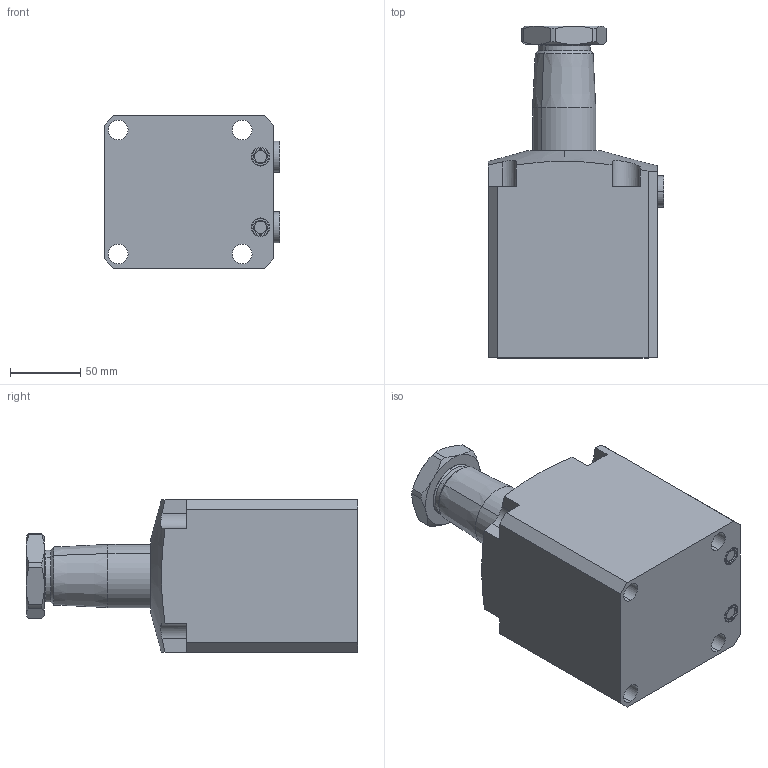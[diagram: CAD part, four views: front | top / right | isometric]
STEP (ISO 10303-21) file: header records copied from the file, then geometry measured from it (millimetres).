
FILE_DESCRIPTION(/* description */ (''),/* implementation_level */ '2;1');
FILE_NAME(/* name */ 'BRC25-RN45.stp',/* time_stamp */ '2025-01-05T09:15:40+08:00',/* author */ (''),/* organization */ (''),/* preprocessor_version */ 'ST-DEVELOPER v16.7',/* originating_system */ 'SIEMENS PLM Software NX 12.0',/* authorisation */ '');
FILE_SCHEMA (('AUTOMOTIVE_DESIGN { 1 0 10303 214 3 1 1 1 }'));
Length unit declared in the file: millimetre
Products named in the file (5): BRC25-RN45-04; BRC25-RN45-03; BRC25-RN45-02; BRC25-RN45-01; BRC25-RN45_stp
Assembly tree (5 placements, depth 2):
  BRC25-RN45_stp
    BRC25-RN45-01
    BRC25-RN45-02
    BRC25-RN45-03  x2
    BRC25-RN45-04
Bounding box: 124.8 x 235.4 x 108 mm (x, y, z)
Volume: 1831508.2 mm3; surface area: 139345.9 mm2
Topology: 7 solids, 7 shells, 176 faces, 401 edges, 248 vertices
Faces by surface type: plane 68, cylinder 57, cone 34, torus 16, sphere 1
Full cylindrical faces by diameter (mm): 13 x2
Entity records: 4661 total; most frequent: CARTESIAN_POINT 958, DIRECTION 778, ORIENTED_EDGE 712, EDGE_CURVE 356, AXIS2_PLACEMENT_3D 313, VERTEX_POINT 222, EDGE_LOOP 180, ADVANCED_FACE 156
